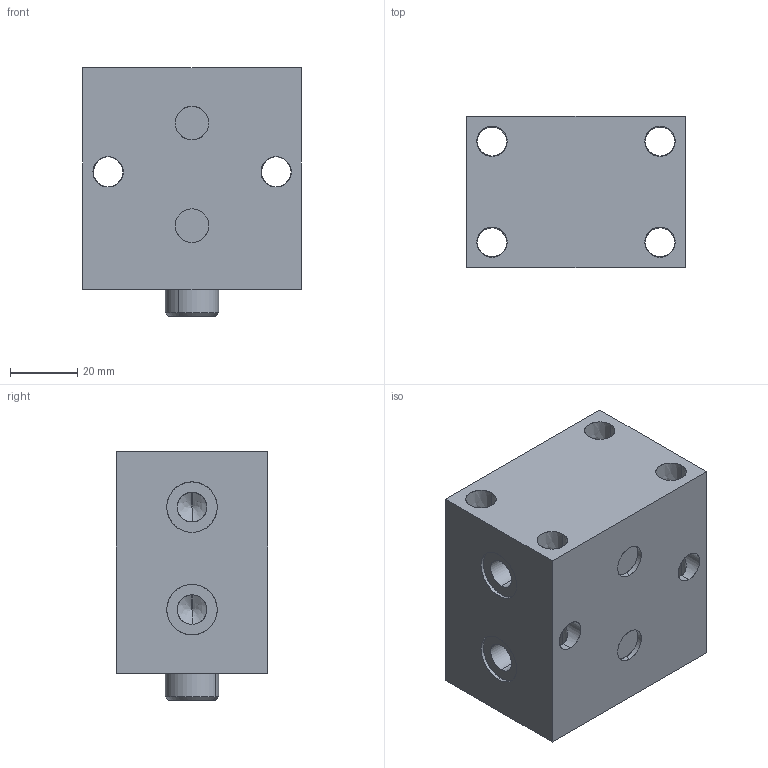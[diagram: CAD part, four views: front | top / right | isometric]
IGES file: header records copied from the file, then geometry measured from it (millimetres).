
Start section: SolidWorks IGES file using analytic representation for surfaces
Global section: file name: D:\karuppas\Clasp\3D model\Block cylinder B01C-Female thread\B01C-116F\Body_116F.IGS; native system: SolidWorks 2017; preprocessor: SolidWorks 2017; author: pc; date: 220709.235606; units: millimetre
Bounding box: 65 x 45 x 74 mm (x, y, z)
Surface area: 35024.7 mm2 (no closed solid volume)
Topology: 0 solids, 0 shells, 331 faces, 5429 edges, 5423 vertices
Faces by surface type: bspline 287, revolution 44
